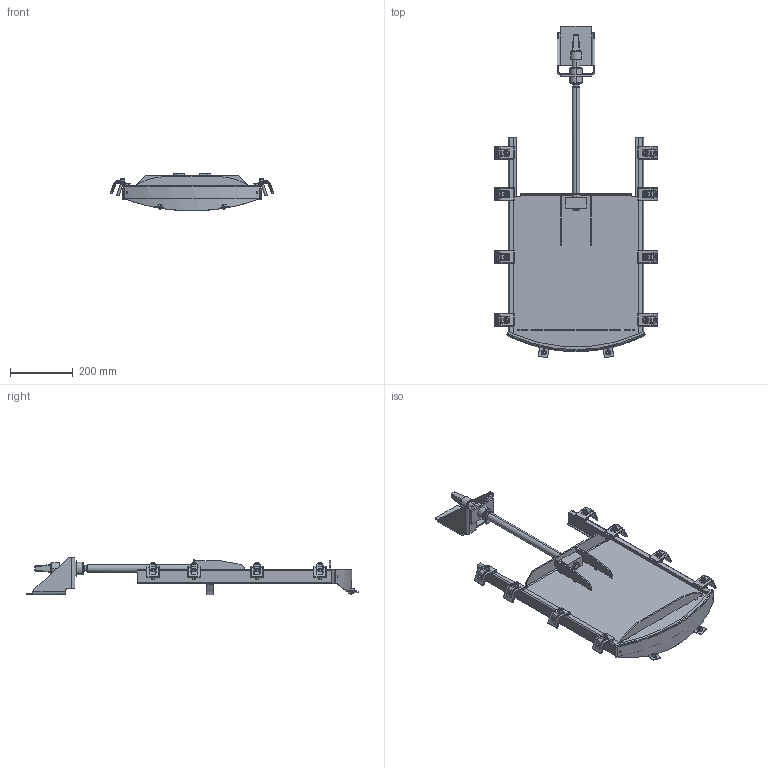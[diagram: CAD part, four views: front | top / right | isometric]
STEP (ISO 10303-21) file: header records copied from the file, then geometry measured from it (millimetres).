
FILE_DESCRIPTION (( 'STEP AP214' ), '1' );
FILE_NAME ('LW 350 Schacht1200 geschr..STEP', '2022-05-20T08:50:09', ( '' ), ( '' ), 'SwSTEP 2.0', 'SolidWorks 2021', '' );
FILE_SCHEMA (( 'AUTOMOTIVE_DESIGN' ));
Length unit declared in the file: millimetre
Products named in the file (1): LW 350 Schacht1200 geschr.
Bounding box: 519.27 x 1057.23 x 121 mm (x, y, z)
Volume: 3459354.2 mm3; surface area: 1039364.2 mm2
Topology: 1 solids, 11 shells, 1446 faces, 3432 edges, 1946 vertices
Faces by surface type: cylinder 565, plane 426, cone 146, sphere 112, torus 104, bspline 93
Entity records: 61298 total; most frequent: CARTESIAN_POINT 13360, DIRECTION 6850, ORIENTED_EDGE 6632, EDGE_CURVE 3316, AXIS2_PLACEMENT_3D 2714, VERTEX_POINT 1930, EDGE_LOOP 1558, UNCERTAINTY_MEASURE_WITH_UNIT 1449
